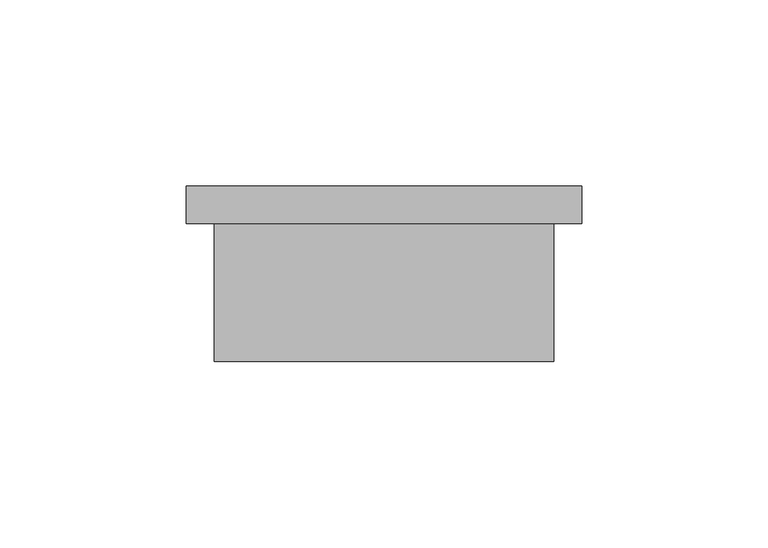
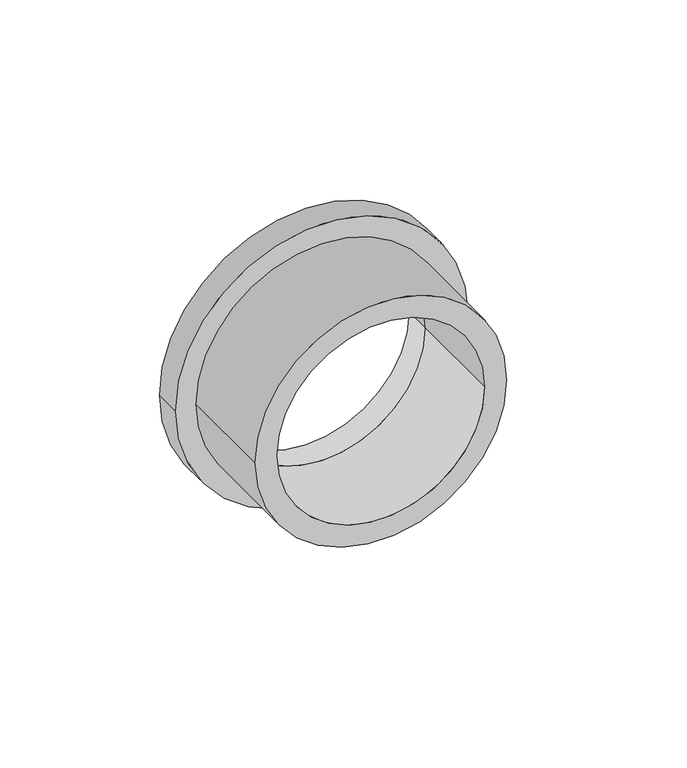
"""IFC4 building model written with IfcOpenShell, lengths in millimetres: pipe fitting geometry, 01051020 : Manguitos porta brida."""

from ifc_helpers import new_model, si_unit, point, frame, origin, origin_2d, place, context, project, spatial, circle_curve, trimmed, segment, composite_curve, outline, extrude, source, transform, mapped, element, save


def pipe_fitting_0f0d36f4(model_context):
    return source(origin(), model_context, "Body", "SweptSolid", [
        extrude(outline(composite_curve([segment(trimmed(circle_curve(origin_2d(), 45.5), [point((0.0, -45.5))], [point((0.0, 45.5))], False, "CARTESIAN"), True, "CONTINUOUS"), segment(trimmed(circle_curve(origin_2d(), 45.5), [point((0.0, 45.5))], [point((0.0, -45.5))], False, "CARTESIAN"), True, "CONTINUOUS")], self_intersect=False), holes=[composite_curve([segment(trimmed(circle_curve(origin_2d(), 37.5), [point((0.0, -37.5))], [point((0.0, 37.5))], True, "CARTESIAN"), True, "CONTINUOUS"), segment(trimmed(circle_curve(origin_2d(), 37.5), [point((0.0, 37.5))], [point((0.0, -37.5))], True, "CARTESIAN"), True, "CONTINUOUS")], self_intersect=False)]), frame((0.0, -37.0, 0.0), z_axis=(0.0, 1.0, 0.0), x_axis=(0.0, 0.0, 1.0)), (0.0, 0.0, 1.0), 37.0),
        extrude(outline(composite_curve([segment(trimmed(circle_curve(origin_2d(), 53.0), [point((0.0, -53.0))], [point((0.0, 53.0))], False, "CARTESIAN"), True, "CONTINUOUS"), segment(trimmed(circle_curve(origin_2d(), 53.0), [point((0.0, 53.0))], [point((0.0, -53.0))], False, "CARTESIAN"), True, "CONTINUOUS")], self_intersect=False), holes=[composite_curve([segment(trimmed(circle_curve(origin_2d(), 37.5), [point((0.0, -37.5))], [point((0.0, 37.5))], True, "CARTESIAN"), True, "CONTINUOUS"), segment(trimmed(circle_curve(origin_2d(), 37.5), [point((0.0, 37.5))], [point((0.0, -37.5))], True, "CARTESIAN"), True, "CONTINUOUS")], self_intersect=False)]), frame((0.0, 0.0, 0.0), z_axis=(0.0, 1.0, 0.0), x_axis=(0.0, 0.0, 1.0)), (0.0, 0.0, 1.0), 10.0),
    ])


if __name__ == "__main__":
    model = new_model("IFC4")
    model_context = context("Model", 3, world=origin())
    ifc_project = project(units=[si_unit("LENGTHUNIT", "METRE", prefix="MILLI")], contexts=[model_context])
    site = spatial("IfcSite", under=ifc_project)
    building = spatial("IfcBuilding", under=site)
    placement = place(None, origin())
    pipe_fitting_shape = pipe_fitting_0f0d36f4(model_context)
    element("IfcPipeFitting", 1, ObjectType="01051020 : Manguitos porta brida", at=placement, inside=building, context=model_context, shape_type="MappedRepresentation", body=[
        mapped(pipe_fitting_shape, transform((0.0, 0.0, 0.0), x_axis=(1.0, 0.0, 0.0), y_axis=(0.0, 1.0, 0.0), z_axis=(0.0, 0.0, 1.0))),
    ])
    save(model, "model.ifc")
